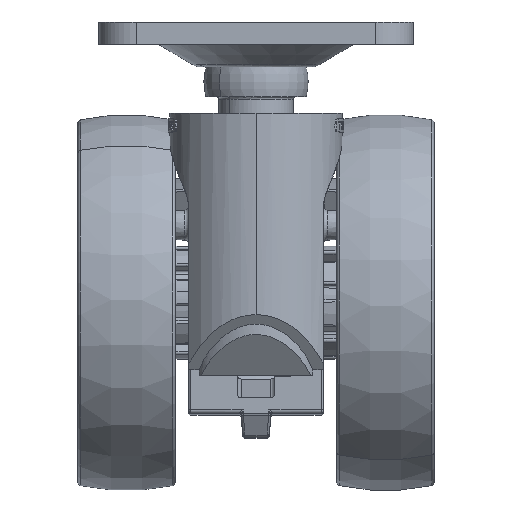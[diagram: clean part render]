
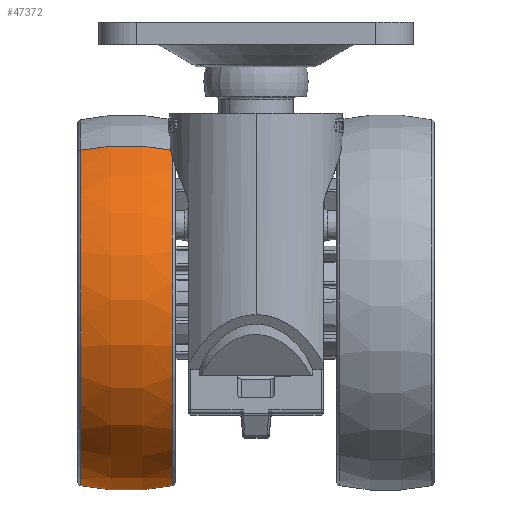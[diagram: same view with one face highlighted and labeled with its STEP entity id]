
A CAD part, left-side view. The second image highlights one B-rep face of the part: STEP entity #47372.
In plain terms, the highlighted toroidal (fillet/blend) face has major radius 0.183 mm and minor radius 25.067 mm.
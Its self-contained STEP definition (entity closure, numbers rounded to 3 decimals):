
#1303 = AXIS2_PLACEMENT_3D ( 'NONE', #182809, #39737, #181785 ) ;
#23048 = FACE_OUTER_BOUND ( 'NONE', #196484, .T. ) ;
#24237 = ORIENTED_EDGE ( 'NONE', *, *, #35273, .T. ) ;
#34065 = ORIENTED_EDGE ( 'NONE', *, *, #168073, .T. ) ;
#34832 = EDGE_CURVE ( 'NONE', #194063, #158257, #143741, .T. ) ;
#35273 = EDGE_CURVE ( 'NONE', #119754, #158257, #160317, .T. ) ;
#39737 = DIRECTION ( 'NONE',  ( 0.831, 0., 0.556 ) ) ;
#47372 = ADVANCED_FACE ( 'NONE', ( #23048 ), #108656, .T. ) ;
#48121 = ORIENTED_EDGE ( 'NONE', *, *, #34832, .F. ) ;
#55208 = DIRECTION ( 'NONE',  ( 0., 1., 0. ) ) ;
#56440 = CARTESIAN_POINT ( 'NONE',  ( -13.606, 23.422, 20.363 ) ) ;
#64818 = AXIS2_PLACEMENT_3D ( 'NONE', #103358, #105400, #90815 ) ;
#65353 = CARTESIAN_POINT ( 'NONE',  ( 13.606, 23.422, -20.363 ) ) ;
#72389 = DIRECTION ( 'NONE',  ( 0., -1., 0. ) ) ;
#74738 = CIRCLE ( 'NONE', #64818, 25.067 ) ;
#75927 = AXIS2_PLACEMENT_3D ( 'NONE', #191099, #99577, #147246 ) ;
#76191 = VERTEX_POINT ( 'NONE', #128535 ) ;
#85277 = CARTESIAN_POINT ( 'NONE',  ( 13.606, 11.178, -20.363 ) ) ;
#90815 = DIRECTION ( 'NONE',  ( -0.556, 0., 0.831 ) ) ;
#99577 = DIRECTION ( 'NONE',  ( 0., 1., 0. ) ) ;
#103358 = CARTESIAN_POINT ( 'NONE',  ( -0.102, 17.3, 0.152 ) ) ;
#105400 = DIRECTION ( 'NONE',  ( -0.831, 0., -0.556 ) ) ;
#105710 = CIRCLE ( 'NONE', #75927, 24.491 ) ;
#108656 = TOROIDAL_SURFACE ( 'NONE', #135149, 0.183, 25.067 ) ;
#119075 = DIRECTION ( 'NONE',  ( 0.556, 0., -0.831 ) ) ;
#119509 = CARTESIAN_POINT ( 'NONE',  ( 0., 17.3, 0. ) ) ;
#119754 = VERTEX_POINT ( 'NONE', #56440 ) ;
#128535 = CARTESIAN_POINT ( 'NONE',  ( -13.606, 11.178, 20.363 ) ) ;
#135149 = AXIS2_PLACEMENT_3D ( 'NONE', #119509, #55208, #194141 ) ;
#143741 = CIRCLE ( 'NONE', #1303, 25.067 ) ;
#147246 = DIRECTION ( 'NONE',  ( -0.556, 0., 0.831 ) ) ;
#158257 = VERTEX_POINT ( 'NONE', #65353 ) ;
#160317 = CIRCLE ( 'NONE', #176897, 24.491 ) ;
#162254 = ORIENTED_EDGE ( 'NONE', *, *, #192353, .T. ) ;
#168073 = EDGE_CURVE ( 'NONE', #194063, #76191, #105710, .T. ) ;
#176897 = AXIS2_PLACEMENT_3D ( 'NONE', #200882, #72389, #119075 ) ;
#181785 = DIRECTION ( 'NONE',  ( 0.556, 0., -0.831 ) ) ;
#182809 = CARTESIAN_POINT ( 'NONE',  ( 0.102, 17.3, -0.152 ) ) ;
#191099 = CARTESIAN_POINT ( 'NONE',  ( 0., 11.178, 0. ) ) ;
#192353 = EDGE_CURVE ( 'NONE', #76191, #119754, #74738, .T. ) ;
#194063 = VERTEX_POINT ( 'NONE', #85277 ) ;
#194141 = DIRECTION ( 'NONE',  ( -0.556, 0., 0.831 ) ) ;
#196484 = EDGE_LOOP ( 'NONE', ( #48121, #34065, #162254, #24237 ) ) ;
#200882 = CARTESIAN_POINT ( 'NONE',  ( 0., 23.422, 0. ) ) ;
